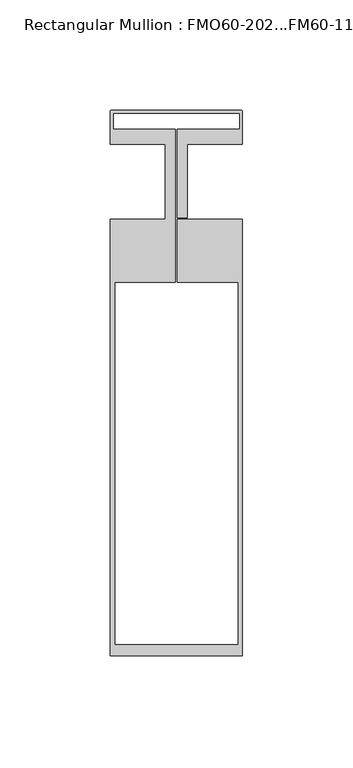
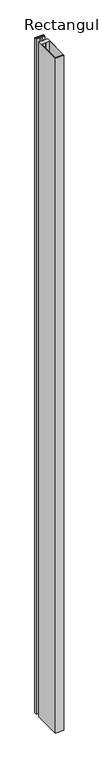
"""IFC4 building model written with IfcOpenShell, lengths in millimetres: member geometry, Rectangular Mullion : FMO60-202...FM60-11."""

from ifc_helpers import new_model, si_unit, point, frame, frame_2d, origin, place, context, project, spatial, polyline, circle_curve, trimmed, segment, composite_curve, outline, extrude, source, transform, mapped, element, save


def rectangular_mullion_fmo60_202_fm60_11_6de17c08(model_context):
    return source(origin(), model_context, "Body", "SweptSolid", [
        extrude(outline(composite_curve([segment(polyline([(-29.5, 32.5117899), (29.5, 32.5117899)]), True, "CONTINUOUS"), segment(trimmed(circle_curve(frame_2d((29.5, 32.0117899)), 0.5), [point((29.5, 32.5117899))], [point((30.0, 32.0117899))], False, "CARTESIAN"), True, "CONTINUOUS"), segment(polyline([(30.0, 32.0117899), (30.0, 17.0), (5.0, 17.0), (5.0, -16.2), (0.5, -16.2), (0.5, 23.8476589), (28.7, 23.8476589), (28.7, 31.2004689), (-28.7, 31.2004689), (-28.7, 23.8476589), (-0.5, 23.8476589), (-0.5, -45.5034642), (-28.0, -45.5034642), (-28.0, -210.007942), (28.0, -210.007942), (28.0, -45.5034642), (0.5, -45.5034642), (0.5, -17.0), (30.0, -17.0), (30.0, -215.009342), (-30.0, -215.009342), (-30.0, -17.0), (-5.0, -17.0), (-5.0, 17.0), (-30.0, 17.0), (-30.0, 32.0117899)]), True, "CONTINUOUS"), segment(trimmed(circle_curve(frame_2d((-29.5, 32.0117899)), 0.5), [point((-30.0, 32.0117899))], [point((-29.5, 32.5117899))], False, "CARTESIAN"), True, "CONTINUOUS")], self_intersect=False)), frame((0.0, 0.0, -5000.0), z_axis=(0.0, 0.0, 1.0), x_axis=(1.0, 0.0, 0.0)), (0.0, 0.0, 1.0), 5000.0),
    ])


if __name__ == "__main__":
    model = new_model("IFC4")
    model_context = context("Model", 3, world=origin())
    ifc_project = project(units=[si_unit("LENGTHUNIT", "METRE", prefix="MILLI")], contexts=[model_context])
    site = spatial("IfcSite", under=ifc_project)
    building = spatial("IfcBuilding", under=site)
    placement = place(None, origin())
    rectangular_mullion_fmo60_202_fm60_11_shape = rectangular_mullion_fmo60_202_fm60_11_6de17c08(model_context)
    element("IfcMember", 1, ObjectType="Rectangular Mullion : FMO60-202...FM60-11", at=placement, inside=building, context=model_context, shape_type="MappedRepresentation", body=[
        mapped(rectangular_mullion_fmo60_202_fm60_11_shape, transform((0.0, 0.0, 0.0), x_axis=(1.0, 0.0, 0.0), y_axis=(0.0, 1.0, 0.0), z_axis=(0.0, 0.0, 1.0))),
    ])
    save(model, "model.ifc")
